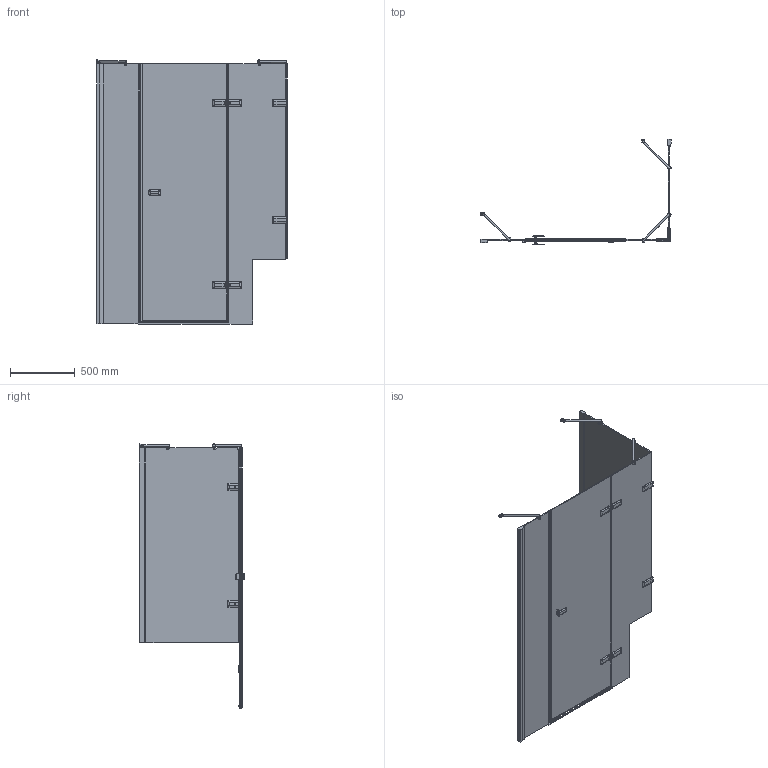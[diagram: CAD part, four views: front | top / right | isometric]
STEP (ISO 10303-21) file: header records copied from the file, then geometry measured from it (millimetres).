
FILE_DESCRIPTION(/* description */ (''),/* implementation_level */ '2;1');
FILE_NAME(/* name */ 'E:\Работа\Сергей\Душевые кабинки\! Работа\98\TREND RECTAN GK-864BVP\TREND RECTAN GK-864BVP правая модель\TREND RECTAN GK-864BVP ПРАВАЯ-3D.stp',/* time_stamp */ '2018-06-07T21:10:15+03:00',/* author */ ('PC'),/* organization */ (''),/* preprocessor_version */ 'ST-DEVELOPER v15.2',/* originating_system */ 'Autodesk Inventor 2014',/* authorisation */ '');
FILE_SCHEMA (('AUTOMOTIVE_DESIGN { 1 0 10303 214 3 1 1 }'));
Products named in the file (1): TREND RECTAN GK-864BVP ПРАВАЯ-
3D
Bounding box: 1463.94 x 812.59 x 2031.5 mm (x, y, z)
Volume: 32654835.5 mm3; surface area: 8416244.5 mm2
Topology: 10 solids, 10 shells, 1493 faces, 3951 edges, 2445 vertices
Faces by surface type: plane 885, cylinder 360, bspline 164, torus 44, sphere 22, cone 18
Full cylindrical faces by diameter (mm): 6 x2, 9 x8, 12 x4, 13 x2, 15 x3, 20 x6, 26 x2
Entity records: 64349 total; most frequent: CARTESIAN_POINT 27234, ORIENTED_EDGE 7588, DIRECTION 7119, EDGE_CURVE 3794, VERTEX_POINT 2399, AXIS2_PLACEMENT_3D 2384, LINE 2351, VECTOR 2351
